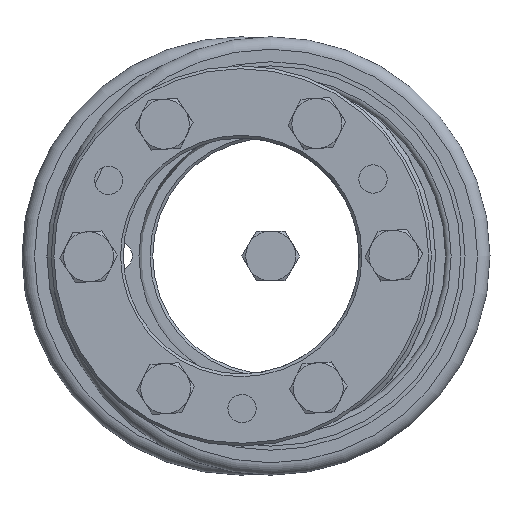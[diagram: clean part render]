
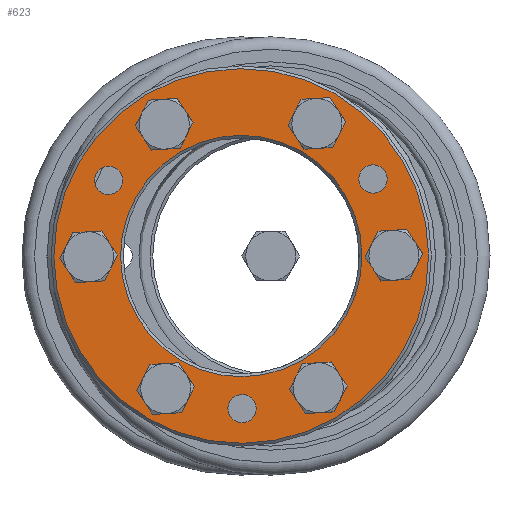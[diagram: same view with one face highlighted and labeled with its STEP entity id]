
A CAD part, left-side view. The second image highlights one B-rep face of the part: STEP entity #623.
In plain terms, the highlighted planar face has unit normal (-1, 0, 0).
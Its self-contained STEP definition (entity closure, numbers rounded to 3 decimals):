
#623 = ADVANCED_FACE( 'NONE', ( #923, #924, #925, #926, #927, #928, #929, #930, #931, #932, #933 ), #934, .F. );
#923 = FACE_OUTER_BOUND( '', #1182, .T. );
#924 = FACE_BOUND( '', #1183, .T. );
#925 = FACE_BOUND( '', #1184, .T. );
#926 = FACE_BOUND( '', #1185, .T. );
#927 = FACE_BOUND( '', #1186, .T. );
#928 = FACE_BOUND( '', #1187, .T. );
#929 = FACE_BOUND( '', #1188, .T. );
#930 = FACE_BOUND( '', #1189, .T. );
#931 = FACE_BOUND( '', #1190, .T. );
#932 = FACE_BOUND( '', #1191, .T. );
#933 = FACE_BOUND( '', #1192, .T. );
#934 = PLANE( '', #1193 );
#1182 = EDGE_LOOP( '', ( #1563 ) );
#1183 = EDGE_LOOP( '', ( #1564 ) );
#1184 = EDGE_LOOP( '', ( #1565 ) );
#1185 = EDGE_LOOP( '', ( #1566 ) );
#1186 = EDGE_LOOP( '', ( #1567 ) );
#1187 = EDGE_LOOP( '', ( #1568 ) );
#1188 = EDGE_LOOP( '', ( #1569 ) );
#1189 = EDGE_LOOP( '', ( #1570 ) );
#1190 = EDGE_LOOP( '', ( #1571 ) );
#1191 = EDGE_LOOP( '', ( #1572 ) );
#1192 = EDGE_LOOP( '', ( #1573 ) );
#1193 = AXIS2_PLACEMENT_3D( '', #1574, #1575, #1576 );
#1563 = ORIENTED_EDGE( '', *, *, #1925, .T. );
#1564 = ORIENTED_EDGE( '', *, *, #1919, .T. );
#1565 = ORIENTED_EDGE( '', *, *, #1926, .F. );
#1566 = ORIENTED_EDGE( '', *, *, #1927, .F. );
#1567 = ORIENTED_EDGE( '', *, *, #1928, .F. );
#1568 = ORIENTED_EDGE( '', *, *, #1929, .F. );
#1569 = ORIENTED_EDGE( '', *, *, #1923, .F. );
#1570 = ORIENTED_EDGE( '', *, *, #1930, .F. );
#1571 = ORIENTED_EDGE( '', *, *, #1931, .F. );
#1572 = ORIENTED_EDGE( '', *, *, #1932, .F. );
#1573 = ORIENTED_EDGE( '', *, *, #1933, .F. );
#1574 = CARTESIAN_POINT( '', ( 0., 42.5, 0. ) );
#1575 = DIRECTION( '', ( 1., 0., 0. ) );
#1576 = DIRECTION( '', ( 0., 1., 0. ) );
#1919 = EDGE_CURVE( 'NONE', #2136, #2136, #2137, .T. );
#1923 = EDGE_CURVE( 'NONE', #2144, #2144, #2145, .T. );
#1925 = EDGE_CURVE( 'NONE', #2148, #2148, #2149, .T. );
#1926 = EDGE_CURVE( 'NONE', #2150, #2150, #2151, .T. );
#1927 = EDGE_CURVE( 'NONE', #2152, #2152, #2153, .T. );
#1928 = EDGE_CURVE( 'NONE', #2154, #2154, #2155, .T. );
#1929 = EDGE_CURVE( 'NONE', #2156, #2156, #2157, .T. );
#1930 = EDGE_CURVE( 'NONE', #2158, #2158, #2159, .T. );
#1931 = EDGE_CURVE( 'NONE', #2160, #2160, #2161, .T. );
#1932 = EDGE_CURVE( 'NONE', #2162, #2162, #2163, .T. );
#1933 = EDGE_CURVE( 'NONE', #2164, #2164, #2165, .T. );
#2136 = VERTEX_POINT( '', #2372 );
#2137 = CIRCLE( '', #2373, 43.5 );
#2144 = VERTEX_POINT( '', #2380 );
#2145 = CIRCLE( '', #2381, 6.5 );
#2148 = VERTEX_POINT( '', #2384 );
#2149 = CIRCLE( '', #2385, 67.5 );
#2150 = VERTEX_POINT( '', #2386 );
#2151 = CIRCLE( '', #2387, 5.1 );
#2152 = VERTEX_POINT( '', #2388 );
#2153 = CIRCLE( '', #2389, 6.5 );
#2154 = VERTEX_POINT( '', #2390 );
#2155 = CIRCLE( '', #2391, 6.5 );
#2156 = VERTEX_POINT( '', #2392 );
#2157 = CIRCLE( '', #2393, 6.5 );
#2158 = VERTEX_POINT( '', #2394 );
#2159 = CIRCLE( '', #2395, 6.5 );
#2160 = VERTEX_POINT( '', #2396 );
#2161 = CIRCLE( '', #2397, 6.5 );
#2162 = VERTEX_POINT( '', #2398 );
#2163 = CIRCLE( '', #2399, 5.1 );
#2164 = VERTEX_POINT( '', #2400 );
#2165 = CIRCLE( '', #2401, 5.1 );
#2372 = CARTESIAN_POINT( '', ( 0., 0., -43.5 ) );
#2373 = AXIS2_PLACEMENT_3D( '', #2521, #2522, #2523 );
#2380 = CARTESIAN_POINT( '', ( 0., -27.5, -41.131 ) );
#2381 = AXIS2_PLACEMENT_3D( '', #2533, #2534, #2535 );
#2384 = CARTESIAN_POINT( '', ( 0., 0., -67.5 ) );
#2385 = AXIS2_PLACEMENT_3D( '', #2539, #2540, #2541 );
#2386 = CARTESIAN_POINT( '', ( 0., 0., -49.9 ) );
#2387 = AXIS2_PLACEMENT_3D( '', #2542, #2543, #2544 );
#2388 = CARTESIAN_POINT( '', ( 0., 27.5, 54.131 ) );
#2389 = AXIS2_PLACEMENT_3D( '', #2545, #2546, #2547 );
#2390 = CARTESIAN_POINT( '', ( 0., -27.5, 54.131 ) );
#2391 = AXIS2_PLACEMENT_3D( '', #2548, #2549, #2550 );
#2392 = CARTESIAN_POINT( '', ( 0., -55., 6.5 ) );
#2393 = AXIS2_PLACEMENT_3D( '', #2551, #2552, #2553 );
#2394 = CARTESIAN_POINT( '', ( 0., 27.5, -41.131 ) );
#2395 = AXIS2_PLACEMENT_3D( '', #2554, #2555, #2556 );
#2396 = CARTESIAN_POINT( '', ( 0., 55., 6.5 ) );
#2397 = AXIS2_PLACEMENT_3D( '', #2557, #2558, #2559 );
#2398 = CARTESIAN_POINT( '', ( 0., 47.631, 32.6 ) );
#2399 = AXIS2_PLACEMENT_3D( '', #2560, #2561, #2562 );
#2400 = CARTESIAN_POINT( '', ( 0., -47.631, 32.6 ) );
#2401 = AXIS2_PLACEMENT_3D( '', #2563, #2564, #2565 );
#2521 = CARTESIAN_POINT( '', ( 0., 0., 0. ) );
#2522 = DIRECTION( '', ( 1., 0., 0. ) );
#2523 = DIRECTION( '', ( 0., 0., -1. ) );
#2533 = CARTESIAN_POINT( '', ( 0., -27.5, -47.631 ) );
#2534 = DIRECTION( '', ( -1., 0., 0. ) );
#2535 = DIRECTION( '', ( 0., 0., 1. ) );
#2539 = CARTESIAN_POINT( '', ( 0., 0., 0. ) );
#2540 = DIRECTION( '', ( -1., 0., 0. ) );
#2541 = DIRECTION( '', ( 0., 0., -1. ) );
#2542 = CARTESIAN_POINT( '', ( 0., 0., -55. ) );
#2543 = DIRECTION( '', ( -1., 0., 0. ) );
#2544 = DIRECTION( '', ( 0., 0., 1. ) );
#2545 = CARTESIAN_POINT( '', ( 0., 27.5, 47.631 ) );
#2546 = DIRECTION( '', ( -1., 0., 0. ) );
#2547 = DIRECTION( '', ( 0., 0., 1. ) );
#2548 = CARTESIAN_POINT( '', ( 0., -27.5, 47.631 ) );
#2549 = DIRECTION( '', ( -1., 0., 0. ) );
#2550 = DIRECTION( '', ( 0., 0., 1. ) );
#2551 = CARTESIAN_POINT( '', ( 0., -55., 0. ) );
#2552 = DIRECTION( '', ( -1., 0., 0. ) );
#2553 = DIRECTION( '', ( 0., 0., 1. ) );
#2554 = CARTESIAN_POINT( '', ( 0., 27.5, -47.631 ) );
#2555 = DIRECTION( '', ( -1., 0., 0. ) );
#2556 = DIRECTION( '', ( 0., 0., 1. ) );
#2557 = CARTESIAN_POINT( '', ( 0., 55., 0. ) );
#2558 = DIRECTION( '', ( -1., 0., 0. ) );
#2559 = DIRECTION( '', ( 0., 0., 1. ) );
#2560 = CARTESIAN_POINT( '', ( 0., 47.631, 27.5 ) );
#2561 = DIRECTION( '', ( -1., 0., 0. ) );
#2562 = DIRECTION( '', ( 0., 0., 1. ) );
#2563 = CARTESIAN_POINT( '', ( 0., -47.631, 27.5 ) );
#2564 = DIRECTION( '', ( -1., 0., 0. ) );
#2565 = DIRECTION( '', ( 0., 0., 1. ) );
